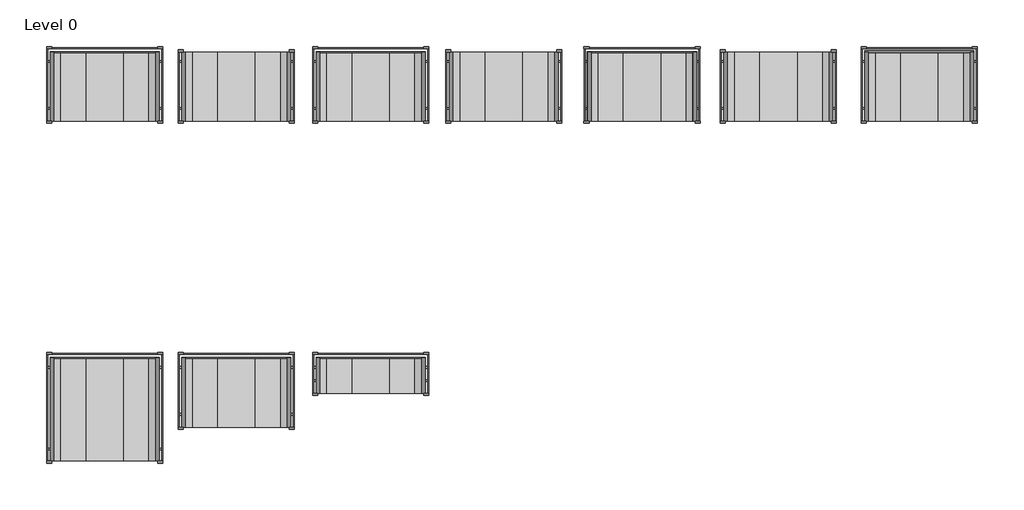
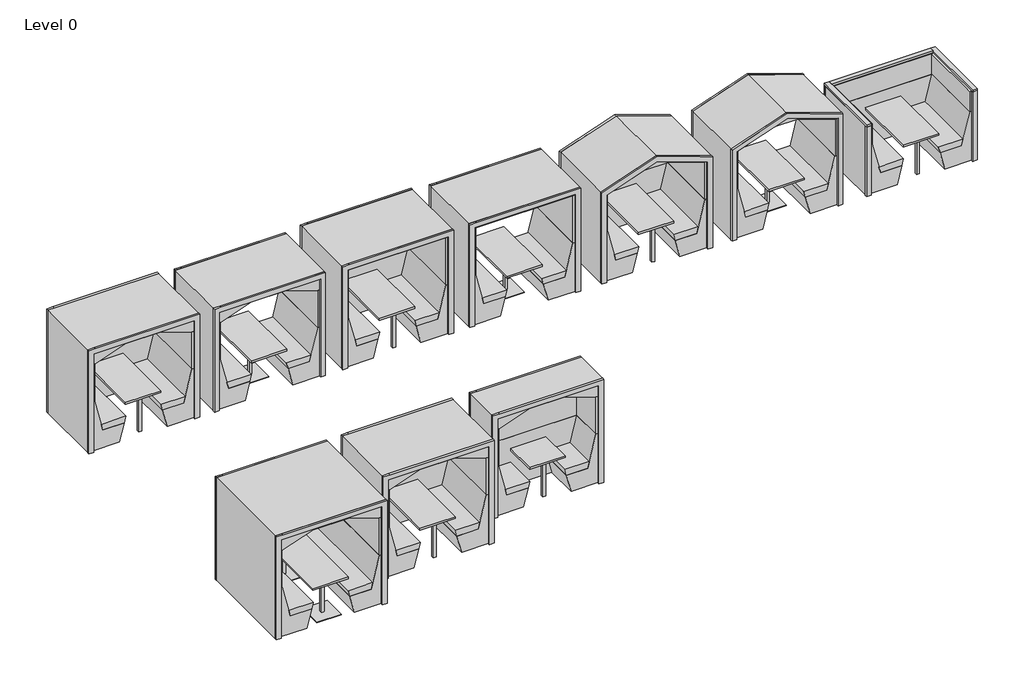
# One storey: 10 furniture elements.
"""IFC4 building model written with IfcOpenShell, lengths in millimetres."""

from ifc_helpers import new_model, si_unit, origin, place, context, project, spatial, transform, mapped, element, save
from components import furniture_c9d6e980, flat_roof_arch_354ff4fe, flat_roof_arch_5d52fd44, flat_roof_arch_9e1a7323, flat_roof_arch_open_70fa0409, flat_roof_square_6827444e, flat_roof_square_open_a961810b, pitched_roof_1852673e, pitched_roof_open_70e2cd3d

model = new_model("IFC4")

# Units and contexts
model_context = context("Model", 3, world=origin())
ifc_project = project(units=[si_unit("LENGTHUNIT", "METRE", prefix="MILLI")], contexts=[model_context])

# Site, building, storey
site = spatial("IfcSite", under=ifc_project)
building = spatial("IfcBuilding", under=site)
storey = spatial("IfcBuildingStorey", under=building, Name="Level 0", Elevation=0.0)

# Furniture
placement = place(None, origin())
furniture_shape = furniture_c9d6e980(model_context)
element("IfcFurniture", 1, ObjectType="Furniture_WorkPod_Spacestor_RailwayCarriage : Banquette", at=placement, inside=storey, context=model_context, shape_type="MappedRepresentation", body=[
    mapped(furniture_shape, transform((6091.2670123, 1491.3509372, 0.0), x_axis=(1.0, 0.0, 0.0), y_axis=(0.0, 1.0, 0.0), z_axis=(0.0, 0.0, 1.0))),
])
flat_roof_arch_shape = flat_roof_arch_354ff4fe(model_context)
element("IfcFurniture", 2, ObjectType="Furniture_WorkPod_Spacestor_RailwayCarriage : Flat Roof (Arch)", at=placement, inside=storey, context=model_context, shape_type="MappedRepresentation", body=[
    mapped(flat_roof_arch_shape, transform((-8357.5141621, 1491.3509372, 0.0), x_axis=(1.0, 0.0, 0.0), y_axis=(0.0, 1.0, 0.0), z_axis=(0.0, 0.0, 1.0))),
])
element("IfcFurniture", 3, ObjectType="Furniture_WorkPod_Spacestor_RailwayCarriage : Flat Roof (Arch)", at=placement, inside=storey, context=model_context, shape_type="MappedRepresentation", body=[
    mapped(flat_roof_arch_shape, transform((-6022.2437674, -3940.175251, 0.0), x_axis=(1.0, 0.0, 0.0), y_axis=(0.0, 1.0, 0.0), z_axis=(0.0, 0.0, 1.0))),
])
flat_roof_arch_2_shape = flat_roof_arch_5d52fd44(model_context)
element("IfcFurniture", 4, ObjectType="Furniture_WorkPod_Spacestor_RailwayCarriage : Flat Roof (Arch)", at=placement, inside=storey, context=model_context, shape_type="MappedRepresentation", body=[
    mapped(flat_roof_arch_2_shape, transform((-8357.5141621, -3940.175251, 0.0), x_axis=(1.0, 0.0, 0.0), y_axis=(0.0, 1.0, 0.0), z_axis=(0.0, 0.0, 1.0))),
])
flat_roof_arch_3_shape = flat_roof_arch_9e1a7323(model_context)
element("IfcFurniture", 5, ObjectType="Furniture_WorkPod_Spacestor_RailwayCarriage : Flat Roof (Arch)", at=placement, inside=storey, context=model_context, shape_type="MappedRepresentation", body=[
    mapped(flat_roof_arch_3_shape, transform((-3640.086385, -3940.175251, 0.0), x_axis=(1.0, 0.0, 0.0), y_axis=(0.0, 1.0, 0.0), z_axis=(0.0, 0.0, 1.0))),
])
flat_roof_arch_open_shape = flat_roof_arch_open_70fa0409(model_context)
element("IfcFurniture", 6, ObjectType="Furniture_WorkPod_Spacestor_RailwayCarriage : Flat Roof (Arch) Open", at=placement, inside=storey, context=model_context, shape_type="MappedRepresentation", body=[
    mapped(flat_roof_arch_open_shape, transform((-6022.2437674, 1491.3509372, 0.0), x_axis=(1.0, 0.0, 0.0), y_axis=(0.0, 1.0, 0.0), z_axis=(0.0, 0.0, 1.0))),
])
flat_roof_square_shape = flat_roof_square_6827444e(model_context)
element("IfcFurniture", 7, ObjectType="Furniture_WorkPod_Spacestor_RailwayCarriage : Flat Roof (Square)", at=placement, inside=storey, context=model_context, shape_type="MappedRepresentation", body=[
    mapped(flat_roof_square_shape, transform((-3640.086385, 1491.3509372, 0.0), x_axis=(1.0, 0.0, 0.0), y_axis=(0.0, 1.0, 0.0), z_axis=(0.0, 0.0, 1.0))),
])
flat_roof_square_open_shape = flat_roof_square_open_a961810b(model_context)
element("IfcFurniture", 8, ObjectType="Furniture_WorkPod_Spacestor_RailwayCarriage : Flat Roof (Square) Open", at=placement, inside=storey, context=model_context, shape_type="MappedRepresentation", body=[
    mapped(flat_roof_square_open_shape, transform((-1277.7803142, 1491.3509372, 0.0), x_axis=(1.0, 0.0, 0.0), y_axis=(0.0, 1.0, 0.0), z_axis=(0.0, 0.0, 1.0))),
])
pitched_roof_shape = pitched_roof_1852673e(model_context)
element("IfcFurniture", 9, ObjectType="Furniture_WorkPod_Spacestor_RailwayCarriage : Pitched Roof", at=placement, inside=storey, context=model_context, shape_type="MappedRepresentation", body=[
    mapped(pitched_roof_shape, transform((1172.5907238, 1491.3509372, 0.0), x_axis=(1.0, 0.0, 0.0), y_axis=(0.0, 1.0, 0.0), z_axis=(0.0, 0.0, 1.0))),
])
pitched_roof_open_shape = pitched_roof_open_70e2cd3d(model_context)
element("IfcFurniture", 10, ObjectType="Furniture_WorkPod_Spacestor_RailwayCarriage : Pitched Roof Open", at=placement, inside=storey, context=model_context, shape_type="MappedRepresentation", body=[
    mapped(pitched_roof_open_shape, transform((3591.4221221, 1491.3509372, 0.0), x_axis=(1.0, 0.0, 0.0), y_axis=(0.0, 1.0, 0.0), z_axis=(0.0, 0.0, 1.0))),
])

save(model, "model.ifc")
